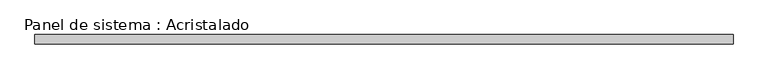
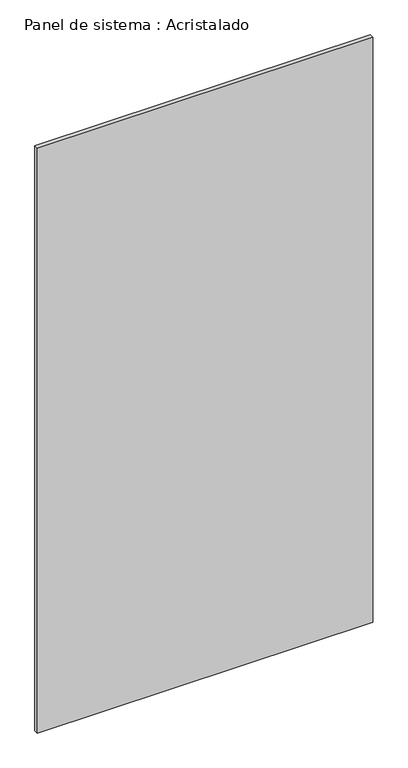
"""IFC4 building model written with IfcOpenShell, lengths in millimetres: plate geometry, Panel de sistema : Acristalado."""

from ifc_helpers import new_model, si_unit, origin, origin_with_axes, place, context, project, spatial, polyline, outline, extrude, source, transform, mapped, element, save


def panel_de_sistema_acristalado_a5853300(model_context):
    return source(origin(), model_context, "Body", "SweptSolid", [
        extrude(outline(polyline([(764.8189655, -10.0), (-764.8189655, -10.0), (-764.8189655, 10.0), (764.8189655, 10.0), (764.8189655, -10.0)])), origin_with_axes(), (0.0, 0.0, 1.0), 2820.0),
    ])


if __name__ == "__main__":
    model = new_model("IFC4")
    model_context = context("Model", 3, world=origin())
    ifc_project = project(units=[si_unit("LENGTHUNIT", "METRE", prefix="MILLI")], contexts=[model_context])
    site = spatial("IfcSite", under=ifc_project)
    building = spatial("IfcBuilding", under=site)
    placement = place(None, origin())
    panel_de_sistema_acristalado_shape = panel_de_sistema_acristalado_a5853300(model_context)
    element("IfcPlate", 1, ObjectType="Panel de sistema : Acristalado", at=placement, inside=building, context=model_context, shape_type="MappedRepresentation", body=[
        mapped(panel_de_sistema_acristalado_shape, transform((0.0, 0.0, 0.0), x_axis=(1.0, 0.0, 0.0), y_axis=(0.0, 1.0, 0.0), z_axis=(0.0, 0.0, 1.0))),
    ])
    save(model, "model.ifc")
